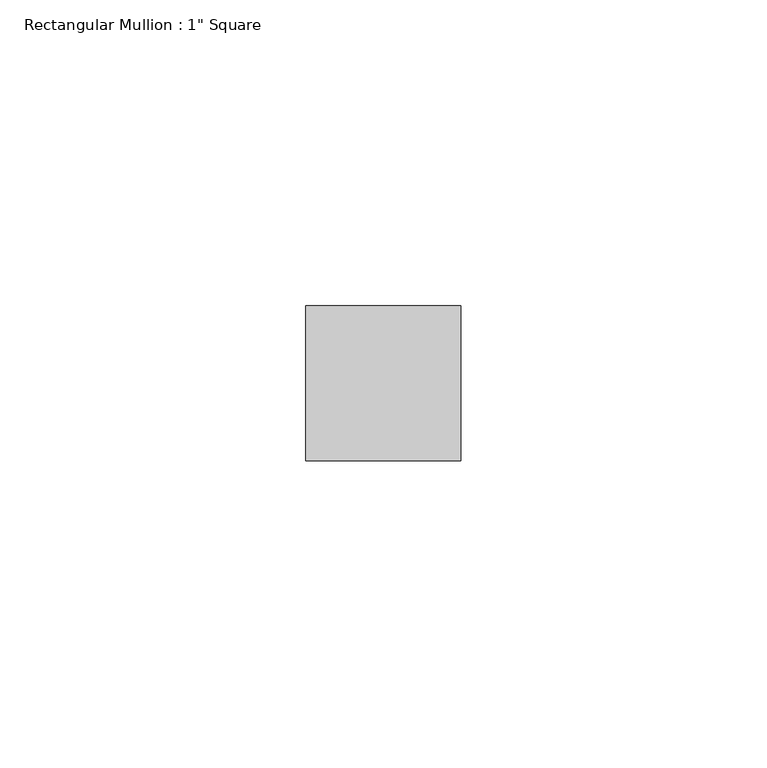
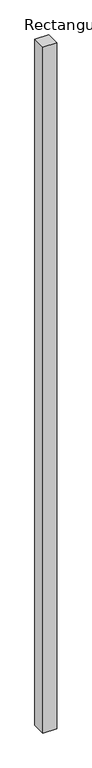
"""IFC4 building model written with IfcOpenShell, lengths in millimetres: member geometry."""

from ifc_helpers import new_model, si_unit, frame, origin, place, context, project, spatial, polyline, outline, extrude, source, transform, mapped, element, save


def member_3a6df916(model_context):
    return source(origin(), model_context, "Body", "SweptSolid", [
        extrude(outline(polyline([(12.7, 12.7), (12.7, -12.7), (-12.7, -12.7), (-12.7, 12.7), (12.7, 12.7)])), frame((0.0, 0.0, -1328.3427184), z_axis=(0.0, 0.0, 1.0), x_axis=(1.0, 0.0, 0.0)), (0.0, 0.0, 1.0), 1328.3427184),
    ])


if __name__ == "__main__":
    model = new_model("IFC4")
    model_context = context("Model", 3, world=origin())
    ifc_project = project(units=[si_unit("LENGTHUNIT", "METRE", prefix="MILLI")], contexts=[model_context])
    site = spatial("IfcSite", under=ifc_project)
    building = spatial("IfcBuilding", under=site)
    placement = place(None, origin())
    member_shape = member_3a6df916(model_context)
    element("IfcMember", 1, ObjectType="Rectangular Mullion : 1\" Square", at=placement, inside=building, context=model_context, shape_type="MappedRepresentation", body=[
        mapped(member_shape, transform((0.0, 0.0, 0.0), x_axis=(1.0, 0.0, 0.0), y_axis=(0.0, 1.0, 0.0), z_axis=(0.0, 0.0, 1.0))),
    ])
    save(model, "model.ifc")
